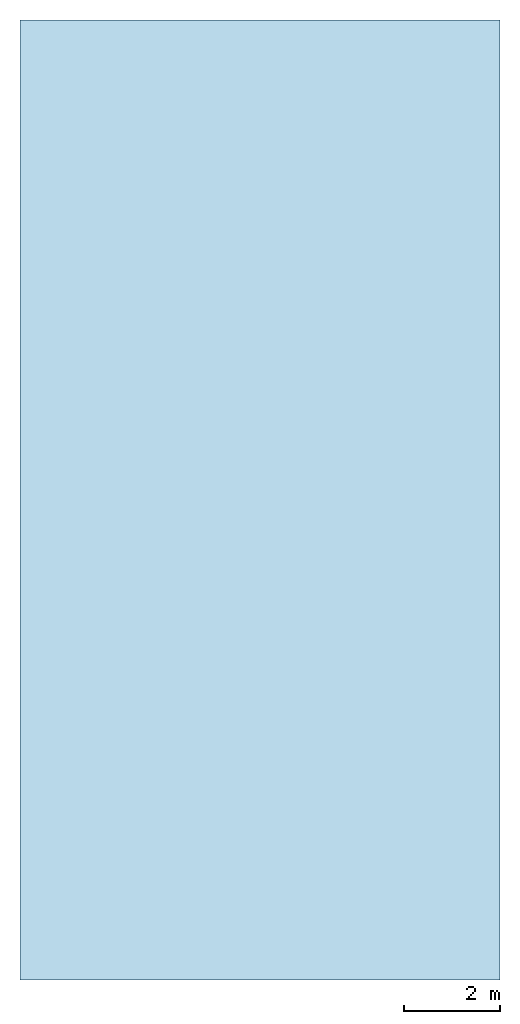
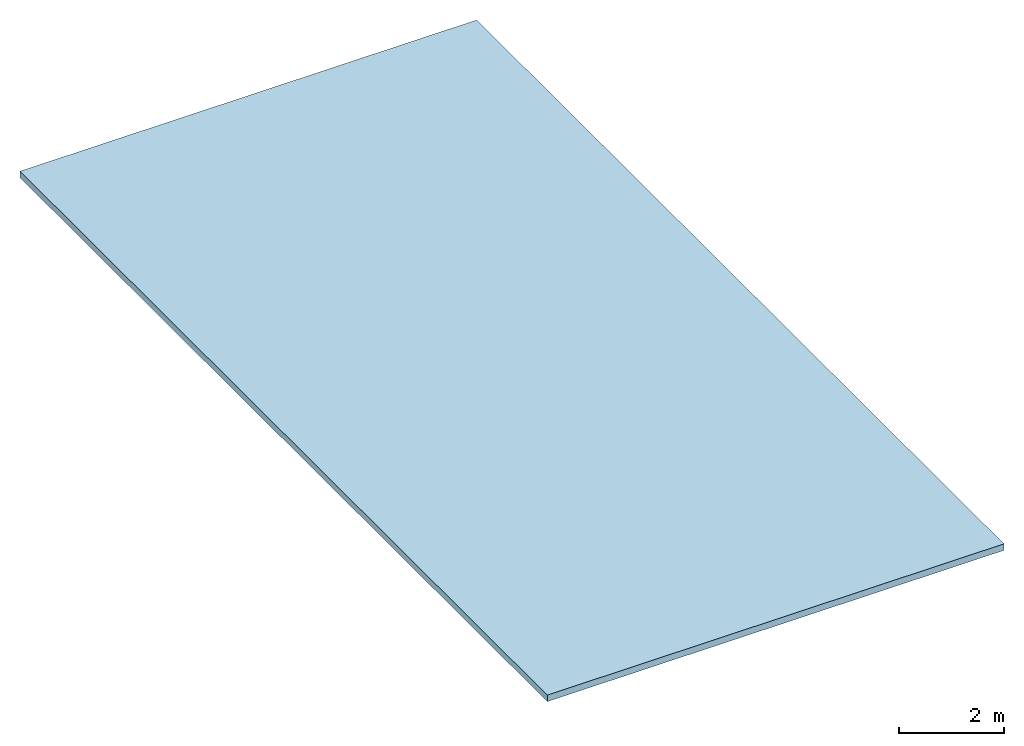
# One storey: 1 slab.
"""IFC2X3 building model written with IfcOpenShell, lengths in millimetres."""

from ifc_helpers import new_model, entity, si_unit, converted_unit, direction, frame, frame_2d, origin, place, context, subcontext, project, spatial, rectangle, extrude, material, layer, layer_set, layer_usage, type_object, element, save


model = new_model("IFC2X3")

# Units and contexts
model_context = context("Model", 3, precision=0.01, world=origin(), true_north=direction((0.0, 1.0)))
body_context = subcontext(model_context, "Body", "Model", "MODEL_VIEW")
ifc_project = project(units=[si_unit("LENGTHUNIT", "METRE", prefix="MILLI"), si_unit("AREAUNIT", "SQUARE_METRE"), si_unit("VOLUMEUNIT", "CUBIC_METRE"), converted_unit("PLANEANGLEUNIT", "DEGREE", entity("IfcPlaneAngleMeasure", 0.017453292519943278), si_unit("PLANEANGLEUNIT", "RADIAN"), dimensions=[0, 0, 0, 0, 0, 0, 0])], contexts=[model_context])

# Site, building, storey
site_placement = place(None, origin())
site = spatial("IfcSite", under=ifc_project, at=site_placement, Name="Default", CompositionType="ELEMENT")
building_placement = place(site_placement, origin())
building = spatial("IfcBuilding", under=site, at=building_placement, CompositionType="ELEMENT")
storey_placement = place(building_placement, frame((0.0, 0.0, 4000.0)))
storey = spatial("IfcBuildingStorey", under=building, at=storey_placement, Name="Nível 2", CompositionType="ELEMENT", Elevation=4000.0000000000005)

# Slab
ifc_material = material(Name="Material pré-definido de piso")
ifc_layer = layer(ifc_material, 149.99999999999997)
ifc_layer_set = layer_set([ifc_layer], Name="Piso:Genérico 150 mm")
ifc_layer_usage = layer_usage(ifc_layer_set, "AXIS3", "POSITIVE", 0.0)
slab_type = type_object("IfcSlabType", Name="Piso:Genérico 150 mm", PredefinedType="FLOOR", material=ifc_layer_set)
slab_placement = place(storey_placement, origin())
element("IfcSlab", 1, at=slab_placement, inside=storey, type_object=slab_type, material=ifc_layer_usage, Name="Piso:Genérico 150 mm", PredefinedType="FLOOR", context=body_context, shape_type="SweptSolid", body=[
    extrude(rectangle(XDim=20000.0, YDim=10000.0, at=frame_2d((-4.547473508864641e-12, 0.0), x_axis=(1.0, 0.0))), frame((0.0, -42000.0, 0.0), z_axis=(0.0, 0.0, -1.0), x_axis=(0.0, 1.0, 0.0)), (0.0, 0.0, 1.0), 150.0),
])

save(model, "model.ifc")
